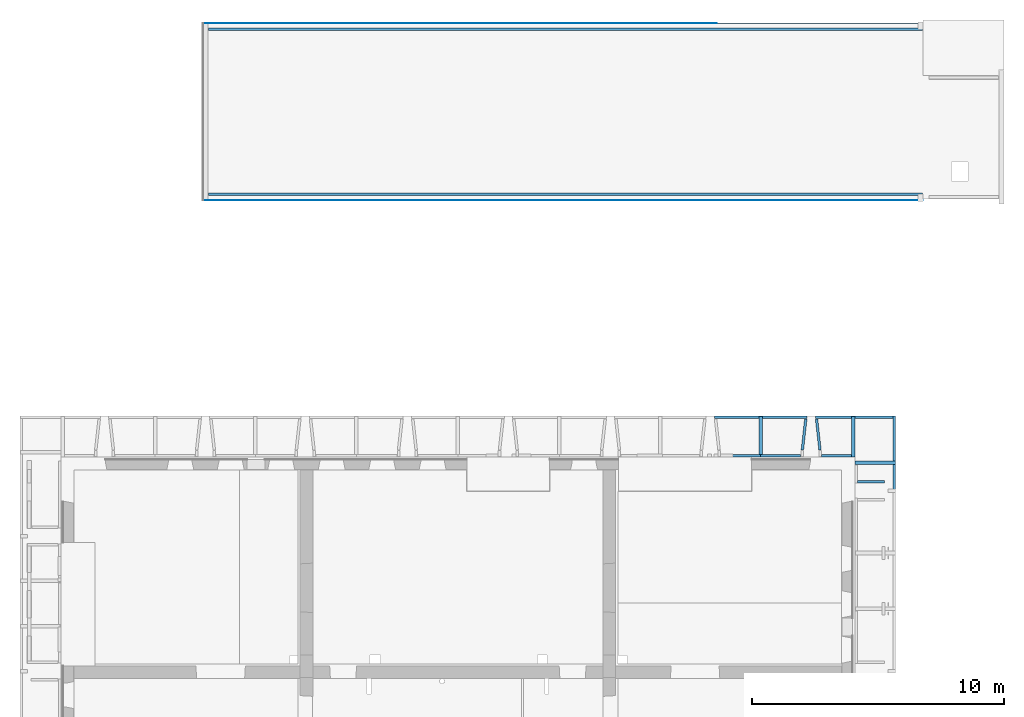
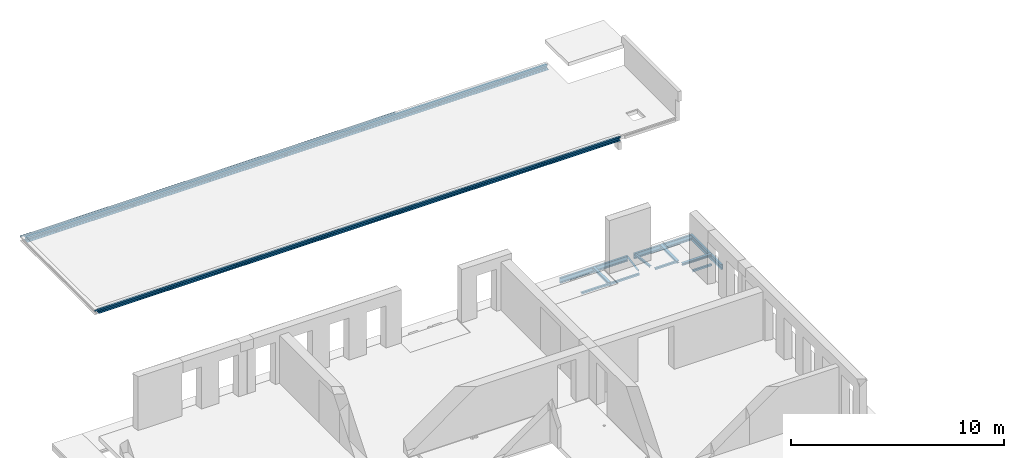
# One storey, part 10 of 27: 16 beams.
"""IFC2X3 building model written with IfcOpenShell, lengths in millimetres."""

from ifc_helpers import new_model, entity, si_unit, converted_unit, derived_unit, direction, frame, frame_2d, origin, origin_2d_with_axis, place, context, subcontext, project, spatial, polyline, circle_curve, parameter, trimmed, segment, composite_curve, rectangle, i_section, outline, extrude, source, transform, mapped, material, type_object, type_shapes, element, save


model = new_model("IFC2X3")

# Units and contexts
model_context = context("Model", 3, precision=0.01, world=origin(), true_north=direction((6.12303176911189e-17, 1.0)))
body_context = subcontext(model_context, "Body", "Model", "MODEL_VIEW")
ifc_project = project(units=[si_unit("LENGTHUNIT", "METRE", prefix="MILLI"), si_unit("AREAUNIT", "SQUARE_METRE"), si_unit("VOLUMEUNIT", "CUBIC_METRE"), converted_unit("PLANEANGLEUNIT", "DEGREE", entity("IfcRatioMeasure", 0.0174532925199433), si_unit("PLANEANGLEUNIT", "RADIAN"), dimensions=[0, 0, 0, 0, 0, 0, 0]), si_unit("MASSUNIT", "GRAM", prefix="KILO"), derived_unit("MASSDENSITYUNIT", [(si_unit("MASSUNIT", "GRAM", prefix="KILO"), 1), (si_unit("LENGTHUNIT", "METRE"), -3)]), si_unit("TIMEUNIT", "SECOND"), si_unit("FREQUENCYUNIT", "HERTZ"), si_unit("THERMODYNAMICTEMPERATUREUNIT", "DEGREE_CELSIUS"), derived_unit("THERMALTRANSMITTANCEUNIT", [(si_unit("MASSUNIT", "GRAM", prefix="KILO"), 1), (si_unit("THERMODYNAMICTEMPERATUREUNIT", "KELVIN"), -1), (si_unit("TIMEUNIT", "SECOND"), -3)]), derived_unit("VOLUMETRICFLOWRATEUNIT", [(si_unit("LENGTHUNIT", "METRE"), 3), (si_unit("TIMEUNIT", "SECOND"), -1)]), si_unit("ELECTRICCURRENTUNIT", "AMPERE"), si_unit("ELECTRICVOLTAGEUNIT", "VOLT"), si_unit("POWERUNIT", "WATT"), si_unit("FORCEUNIT", "NEWTON", prefix="KILO"), si_unit("ILLUMINANCEUNIT", "LUX"), si_unit("LUMINOUSFLUXUNIT", "LUMEN"), si_unit("LUMINOUSINTENSITYUNIT", "CANDELA"), derived_unit("USERDEFINED", [(si_unit("MASSUNIT", "GRAM", prefix="KILO"), -1), (si_unit("LENGTHUNIT", "METRE"), -2), (si_unit("TIMEUNIT", "SECOND"), 3), (si_unit("LUMINOUSFLUXUNIT", "LUMEN"), 1)]), derived_unit("LINEARVELOCITYUNIT", [(si_unit("LENGTHUNIT", "METRE"), 1), (si_unit("TIMEUNIT", "SECOND"), -1)]), si_unit("PRESSUREUNIT", "PASCAL"), derived_unit("USERDEFINED", [(si_unit("LENGTHUNIT", "METRE"), -2), (si_unit("MASSUNIT", "GRAM", prefix="KILO"), 1), (si_unit("TIMEUNIT", "SECOND"), -2)])], contexts=[model_context])

# Site, building, storey
site_placement = place(None, origin())
site = spatial("IfcSite", under=ifc_project, at=site_placement, Name="Default", CompositionType="ELEMENT")
building_placement = place(site_placement, origin())
building = spatial("IfcBuilding", under=site, at=building_placement, Name="niet gebruiken", CompositionType="ELEMENT")
storey_placement = place(building_placement, frame((0.0, 0.0, 18000.0)))
storey = spatial("IfcBuildingStorey", under=building, at=storey_placement, Name="05 vijfde verdieping", CompositionType="ELEMENT", Elevation=18000.0)

# Beams
ifc_material = material(Name="NLRS_h2_staal")
beam_type_1 = type_object("IfcBeamType", Name="ligger SFB190 HE200A+300x10", PredefinedType="BEAM", material=ifc_material)
shared_shape_1 = source(origin(), body_context, "Body", "SweptSolid", [
    extrude(rectangle(XDim=28299.9999999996, YDim=300.000000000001, at=origin_2d_with_axis()), frame((146020.0, 43550.0, 16730.0), z_axis=(0.0, 0.0, 1.0), x_axis=(-1.0, 0.0, 0.0)), (0.0, 0.0, 1.0), 9.99999999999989),
    extrude(outline(composite_curve([segment(polyline([(-100.0, -85.0), (-100.0, -95.0)]), True, "CONTINUOUS"), segment(polyline([(-100.0, -95.0), (100.0, -95.0)]), True, "CONTINUOUS"), segment(polyline([(100.0, -95.0), (100.0, -85.0)]), True, "CONTINUOUS"), segment(polyline([(100.0, -85.0), (21.25, -85.0)]), True, "CONTINUOUS"), segment(trimmed(circle_curve(frame_2d((21.25, -67.0), x_axis=(1.0, 0.0)), 18.0), [parameter(180.0)], [parameter(270.0)], True, "PARAMETER"), False, "CONTINUOUS"), segment(polyline([(3.25, -67.0), (3.25, 67.0)]), True, "CONTINUOUS"), segment(trimmed(circle_curve(frame_2d((21.25, 67.0), x_axis=(1.0, 0.0)), 18.0), [parameter(90.0000000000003)], [parameter(180.0)], True, "PARAMETER"), False, "CONTINUOUS"), segment(polyline([(21.25, 85.0), (100.0, 85.0)]), True, "CONTINUOUS"), segment(polyline([(100.0, 85.0), (100.0, 95.0)]), True, "CONTINUOUS"), segment(polyline([(100.0, 95.0), (-100.0, 95.0)]), True, "CONTINUOUS"), segment(polyline([(-100.0, 95.0), (-100.0, 85.0)]), True, "CONTINUOUS"), segment(polyline([(-100.0, 85.0), (-21.25, 85.0)]), True, "CONTINUOUS"), segment(trimmed(circle_curve(frame_2d((-21.25, 67.0), x_axis=(1.0, 0.0)), 18.0), [parameter(3.56222124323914e-13)], [parameter(90.0000000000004)], True, "PARAMETER"), False, "CONTINUOUS"), segment(polyline([(-3.25000000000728, 67.0), (-3.25000000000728, -67.0)]), True, "CONTINUOUS"), segment(trimmed(circle_curve(frame_2d((-21.25, -67.0), x_axis=(1.0, 0.0)), 18.0), [parameter(270.0)], [parameter(4.07110999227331e-13)], True, "PARAMETER"), False, "CONTINUOUS"), segment(polyline([(-21.25, -85.0), (-100.0, -85.0)]), True, "CONTINUOUS")], self_intersect=False)), frame((131870.0, 43500.0, 16835.0), z_axis=(-1.0, 0.0, 0.0), x_axis=(0.0, 1.0, 0.0)), (0.0, 0.0, -1.0), 28299.9999999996),
])
type_shapes(beam_type_1, [shared_shape_1])
beam_1_placement = place(storey_placement, frame((0.0, 0.0, -18000.0)))
element("IfcBeam", 1, at=beam_1_placement, inside=storey, type_object=beam_type_1, material=ifc_material, Name="NLRS_28.11_SF_WPB_stalen ligger SFB_gen_BSc:ligger SFB190 HE200A+300x10", ObjectType="ligger SFB190 HE200A+300x10", context=body_context, shape_type="MappedRepresentation", body=[
    mapped(shared_shape_1, transform((0.0, 0.0, 0.0), scale=1.0)),
])
beam_type_2 = type_object("IfcBeamType", Name="ligger SFB190 HE200A+300x10", PredefinedType="BEAM", material=ifc_material)
shared_shape_2 = source(origin(), body_context, "Body", "SweptSolid", [
    extrude(rectangle(XDim=300.000000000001, YDim=28299.9999999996, at=origin_2d_with_axis()), frame((146020.0, 50275.0, 16730.0), z_axis=(0.0, 0.0, 1.0), x_axis=(0.0, 1.0, 0.0)), (0.0, 0.0, 1.0), 9.99999999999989),
    extrude(outline(composite_curve([segment(polyline([(85.0, -100.0), (95.0, -100.0)]), True, "CONTINUOUS"), segment(polyline([(95.0, -100.0), (95.0, 100.0)]), True, "CONTINUOUS"), segment(polyline([(95.0, 100.0), (85.0, 100.0)]), True, "CONTINUOUS"), segment(polyline([(85.0, 100.0), (85.0, 21.2500000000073)]), True, "CONTINUOUS"), segment(trimmed(circle_curve(frame_2d((67.0, 21.2500000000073), x_axis=(0.0, 1.0)), 18.0), [parameter(180.0)], [parameter(270.0)], True, "PARAMETER"), False, "CONTINUOUS"), segment(polyline([(67.0, 3.25000000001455), (-67.0, 3.25000000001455)]), True, "CONTINUOUS"), segment(trimmed(circle_curve(frame_2d((-67.0, 21.2500000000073), x_axis=(0.0, 1.0)), 18.0), [parameter(90.0000000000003)], [parameter(180.0)], True, "PARAMETER"), False, "CONTINUOUS"), segment(polyline([(-85.0, 21.2500000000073), (-85.0, 100.0)]), True, "CONTINUOUS"), segment(polyline([(-85.0, 100.0), (-95.0, 100.0)]), True, "CONTINUOUS"), segment(polyline([(-95.0, 100.0), (-95.0, -100.0)]), True, "CONTINUOUS"), segment(polyline([(-95.0, -100.0), (-85.0, -100.0)]), True, "CONTINUOUS"), segment(polyline([(-85.0, -100.0), (-85.0, -21.2499999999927)]), True, "CONTINUOUS"), segment(trimmed(circle_curve(frame_2d((-67.0, -21.2499999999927), x_axis=(0.0, 1.0)), 18.0), [parameter(3.56222124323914e-13)], [parameter(90.0000000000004)], True, "PARAMETER"), False, "CONTINUOUS"), segment(polyline([(-67.0, -3.24999999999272), (67.0, -3.24999999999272)]), True, "CONTINUOUS"), segment(trimmed(circle_curve(frame_2d((67.0, -21.2499999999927), x_axis=(0.0, 1.0)), 18.0), [parameter(270.0)], [parameter(4.07110999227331e-13)], True, "PARAMETER"), False, "CONTINUOUS"), segment(polyline([(85.0, -21.2499999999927), (85.0, -100.0)]), True, "CONTINUOUS")], self_intersect=False)), frame((131870.0, 50325.0, 16835.0), z_axis=(1.0, 0.0, 0.0), x_axis=(0.0, 0.0, 1.0)), (0.0, 0.0, 1.0), 28299.9999999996),
])
type_shapes(beam_type_2, [shared_shape_2])
beam_2_placement = place(storey_placement, frame((0.0, 0.0, -18000.0)))
element("IfcBeam", 2, at=beam_2_placement, inside=storey, type_object=beam_type_2, material=ifc_material, Name="NLRS_28.11_SF_WPB_stalen ligger SFB_gen_BSc:ligger SFB190 HE200A+300x10", ObjectType="ligger SFB190 HE200A+300x10", context=body_context, shape_type="MappedRepresentation", body=[
    mapped(shared_shape_2, transform((0.0, 0.0, 0.0), scale=1.0)),
])
beam_type_3 = type_object("IfcBeamType", Name="NLRS_28.11_SF_WPB_stalen ligger HEA_gen:ligger HEA 140", PredefinedType="BEAM")
beam_3_placement = place(storey_placement, frame((153750.0, 34840.0, -1015.0), z_axis=(0.0, 0.0, 1.0), x_axis=(0.0, -1.0, 0.0)))
element("IfcBeam", 3, at=beam_3_placement, inside=storey, type_object=beam_type_3, material=ifc_material, Name="NLRS_28.11_SF_WPB_stalen ligger HEA_gen:ligger HEA 140", ObjectType="NLRS_28.11_SF_WPB_stalen ligger HEA_gen:ligger HEA 140", context=body_context, shape_type="SweptSolid", body=[
    extrude(i_section(OverallWidth=140.000000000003, OverallDepth=133.0, WebThickness=5.49999999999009, FlangeThickness=8.49999999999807, FilletRadius=11.9999999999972, at=frame_2d((-4.33431068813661e-12, 0.0), x_axis=(0.0, 1.0))), frame((0.0, 0.0, -66.5000000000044), z_axis=(1.0, 0.0, 0.0), x_axis=(0.0, 0.0, -1.0)), (0.0, 0.0, 1.0), 1610.0),
])
beam_4_placement = place(storey_placement, frame((157410.0, 34840.0, -1015.0), z_axis=(0.0, 0.0, 1.0), x_axis=(0.0, -1.0, 0.0)))
element("IfcBeam", 4, at=beam_4_placement, inside=storey, type_object=beam_type_3, material=ifc_material, Name="NLRS_28.11_SF_WPB_stalen ligger HEA_gen:ligger HEA 140", ObjectType="NLRS_28.11_SF_WPB_stalen ligger HEA_gen:ligger HEA 140", context=body_context, shape_type="SweptSolid", body=[
    extrude(i_section(OverallWidth=139.999999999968, OverallDepth=133.0, WebThickness=5.50000000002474, FlangeThickness=8.49999999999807, FilletRadius=12.000000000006, at=frame_2d((-4.33431068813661e-12, 0.0), x_axis=(0.0, 1.0))), frame((0.0, 0.0, -66.5000000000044), z_axis=(1.0, 0.0, 0.0), x_axis=(0.0, 0.0, -1.0)), (0.0, 0.0, 1.0), 1610.0),
])
beam_5_placement = place(storey_placement, frame((157480.0, 33000.0, -1015.0)))
element("IfcBeam", 5, at=beam_5_placement, inside=storey, type_object=beam_type_3, material=ifc_material, Name="NLRS_28.11_SF_WPB_stalen ligger HEA_gen:ligger HEA 140", ObjectType="NLRS_28.11_SF_WPB_stalen ligger HEA_gen:ligger HEA 140", context=body_context, shape_type="SweptSolid", body=[
    extrude(i_section(OverallWidth=140.000000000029, OverallDepth=133.0, WebThickness=5.49999999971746, FlangeThickness=8.49999999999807, FilletRadius=12.0000000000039, at=frame_2d((-4.33431068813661e-12, 0.0), x_axis=(0.0, 1.0))), frame((0.0, 0.0, -66.5000000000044), z_axis=(1.0, 0.0, 0.0), x_axis=(0.0, 0.0, -1.0)), (0.0, 0.0, 1.0), 1609.7398436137),
])
beam_type_4 = type_object("IfcBeamType", Name="ligger stripstaal RECT_85x5", PredefinedType="BEAM", material=ifc_material)
shared_shape_3 = source(origin(), body_context, "Body", "SweptSolid", [
    extrude(rectangle(XDim=28519.9999999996, YDim=4.99999999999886, at=frame_2d((0.0, 4.33142410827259e-12), x_axis=(1.0, 0.0))), frame((145910.0, 43402.5, 16930.0)), (0.0, 0.0, 1.0), 85.0000000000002),
    extrude(rectangle(XDim=28519.9999999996, YDim=4.99999999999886, at=frame_2d((0.0, 4.33142410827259e-12), x_axis=(1.0, 0.0))), frame((145910.0, 43402.5, 16930.0)), (0.0, 0.0, 1.0), 85.0000000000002),
])
type_shapes(beam_type_4, [shared_shape_3])
beam_6_placement = place(storey_placement, frame((0.0, 0.0, -18000.0)))
element("IfcBeam", 6, at=beam_6_placement, inside=storey, type_object=beam_type_4, material=ifc_material, Name="NLRS_28.11_SF_WPB_stalen ligger stripstaal_gen:ligger stripstaal RECT_85x5", ObjectType="ligger stripstaal RECT_85x5", context=body_context, shape_type="MappedRepresentation", body=[
    mapped(shared_shape_3, transform((0.0, 0.0, 0.0), scale=1.0)),
])
beam_type_5 = type_object("IfcBeamType", Name="ligger stripstaal RECT_85x5", PredefinedType="BEAM", material=ifc_material)
shared_shape_4 = source(origin(), body_context, "Body", "SweptSolid", [
    extrude(rectangle(XDim=20349.9999999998, YDim=4.99999999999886, at=frame_2d((0.0, 4.33142410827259e-12), x_axis=(1.0, 0.0))), frame((141825.0, 50422.5, 16930.0)), (0.0, 0.0, 1.0), 85.0000000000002),
    extrude(rectangle(XDim=20349.9999999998, YDim=4.99999999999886, at=frame_2d((0.0, 4.33142410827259e-12), x_axis=(1.0, 0.0))), frame((141825.0, 50422.5, 16930.0)), (0.0, 0.0, 1.0), 85.0000000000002),
])
type_shapes(beam_type_5, [shared_shape_4])
beam_7_placement = place(storey_placement, frame((0.0, 0.0, -18000.0)))
element("IfcBeam", 7, at=beam_7_placement, inside=storey, type_object=beam_type_5, material=ifc_material, Name="NLRS_28.11_SF_WPB_stalen ligger stripstaal_gen:ligger stripstaal RECT_85x5", ObjectType="ligger stripstaal RECT_85x5", context=body_context, shape_type="MappedRepresentation", body=[
    mapped(shared_shape_4, transform((0.0, 0.0, 0.0), scale=1.0)),
])
beam_type_6 = type_object("IfcBeamType", Name="NLRS_28.11_SF_WPB_stalen ligger UNP_gen:ligger UNP 300", PredefinedType="BEAM")
beam_8_placement = place(storey_placement, frame((151915.0, 34823.0, -1015.0)))
element("IfcBeam", 8, at=beam_8_placement, inside=storey, type_object=beam_type_6, material=ifc_material, Name="NLRS_28.11_SF_WPB_stalen ligger UNP_gen:ligger UNP 300", ObjectType="NLRS_28.11_SF_WPB_stalen ligger UNP_gen:ligger UNP 300", context=body_context, shape_type="SweptSolid", body=[
    extrude(outline(composite_curve([segment(polyline([(-149.93760274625, -45.3333333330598), (-142.655201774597, -45.3333333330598)]), True, "CONTINUOUS"), segment(trimmed(circle_curve(frame_2d((-142.655201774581, -37.3333333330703), x_axis=(0.0, -1.0)), 7.99999999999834), [parameter(0.0)], [parameter(90.0000000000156)], True, "PARAMETER"), True, "CONTINUOUS"), segment(polyline([(-134.655201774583, -37.3333333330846), (-130.390412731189, 28.6666666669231)]), True, "CONTINUOUS"), segment(trimmed(circle_curve(frame_2d((-114.390412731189, 28.6666666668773), x_axis=(-1.0, 0.0)), 16.0000000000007), [parameter(270.0)], [parameter(0.0)], True, "PARAMETER"), False, "CONTINUOUS"), segment(polyline([(-114.390412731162, 44.666666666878), (113.875860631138, 44.6666666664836)]), True, "CONTINUOUS"), segment(trimmed(circle_curve(frame_2d((113.875860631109, 28.6666666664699), x_axis=(0.0, 1.0)), 16.0000000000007), [parameter(270.0)], [parameter(0.0)], True, "PARAMETER"), False, "CONTINUOUS"), segment(polyline([(129.87586063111, 28.6666666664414), (135.044959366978, -37.3333333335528)]), True, "CONTINUOUS"), segment(trimmed(circle_curve(frame_2d((143.044959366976, -37.3333333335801), x_axis=(-1.0, 0.0)), 7.99999999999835), [parameter(0.0)], [parameter(90.0000000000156)], True, "PARAMETER"), True, "CONTINUOUS"), segment(polyline([(143.044959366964, -45.3333333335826), (150.062397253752, -45.3333333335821)]), True, "CONTINUOUS"), segment(polyline([(150.062397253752, -45.3333333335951), (150.06239725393, 54.6666666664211)]), True, "CONTINUOUS"), segment(polyline([(150.06239725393, 54.6666666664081), (-149.937602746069, 54.6666666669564)]), True, "CONTINUOUS"), segment(polyline([(-149.937602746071, 54.6666666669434), (-149.93760274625, -45.3333333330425)]), True, "CONTINUOUS")], self_intersect=False)), frame((0.0, -27.6666666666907, -149.937602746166), z_axis=(1.0, 0.0, 0.0), x_axis=(0.0, 0.0, -1.0)), (0.0, 0.0, 1.0), 3673.03330011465),
])
beam_9_placement = place(storey_placement, frame((155915.0, 34823.0, -1015.0)))
element("IfcBeam", 9, at=beam_9_placement, inside=storey, type_object=beam_type_6, material=ifc_material, Name="NLRS_28.11_SF_WPB_stalen ligger UNP_gen:ligger UNP 300", ObjectType="NLRS_28.11_SF_WPB_stalen ligger UNP_gen:ligger UNP 300", context=body_context, shape_type="SweptSolid", body=[
    extrude(outline(composite_curve([segment(polyline([(-149.937602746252, -45.3333333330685), (-142.655201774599, -45.3333333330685)]), True, "CONTINUOUS"), segment(trimmed(circle_curve(frame_2d((-142.655201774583, -37.333333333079), x_axis=(0.0, -1.0)), 7.99999999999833), [parameter(0.0)], [parameter(90.0000000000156)], True, "PARAMETER"), True, "CONTINUOUS"), segment(polyline([(-134.655201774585, -37.3333333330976), (-130.390412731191, 28.6666666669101)]), True, "CONTINUOUS"), segment(trimmed(circle_curve(frame_2d((-114.390412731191, 28.6666666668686), x_axis=(-1.0, 0.0)), 16.0000000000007), [parameter(270.0)], [parameter(0.0)], True, "PARAMETER"), False, "CONTINUOUS"), segment(polyline([(-114.390412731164, 44.6666666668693), (113.875860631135, 44.666666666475)]), True, "CONTINUOUS"), segment(trimmed(circle_curve(frame_2d((113.875860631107, 28.6666666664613), x_axis=(0.0, 1.0)), 16.0000000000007), [parameter(270.0)], [parameter(0.0)], True, "PARAMETER"), False, "CONTINUOUS"), segment(polyline([(129.875860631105, 28.6666666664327), (135.044959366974, -37.3333333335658)]), True, "CONTINUOUS"), segment(trimmed(circle_curve(frame_2d((143.044959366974, -37.3333333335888), x_axis=(-1.0, 0.0)), 7.99999999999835), [parameter(0.0)], [parameter(90.0000000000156)], True, "PARAMETER"), True, "CONTINUOUS"), segment(polyline([(143.044959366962, -45.3333333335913), (150.062397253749, -45.3333333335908)]), True, "CONTINUOUS"), segment(polyline([(150.062397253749, -45.3333333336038), (150.062397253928, 54.6666666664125)]), True, "CONTINUOUS"), segment(polyline([(150.062397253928, 54.6666666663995), (-149.937602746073, 54.6666666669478)]), True, "CONTINUOUS"), segment(polyline([(-149.937602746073, 54.6666666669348), (-149.937602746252, -45.3333333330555)]), True, "CONTINUOUS")], self_intersect=False)), frame((0.0, -27.6666666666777, -149.937602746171), z_axis=(1.0, 0.0, 0.0), x_axis=(0.0, 0.0, -1.0)), (0.0, 0.0, 1.0), 3185.00000000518),
])
beam_10_placement = place(storey_placement, frame((159073.0, 31950.0, -1015.0), z_axis=(0.0, 0.0, 1.0), x_axis=(0.0, 1.0, 0.0)))
element("IfcBeam", 10, at=beam_10_placement, inside=storey, type_object=beam_type_6, material=ifc_material, Name="NLRS_28.11_SF_WPB_stalen ligger UNP_gen:ligger UNP 300", ObjectType="NLRS_28.11_SF_WPB_stalen ligger UNP_gen:ligger UNP 300", context=body_context, shape_type="SweptSolid", body=[
    extrude(outline(composite_curve([segment(polyline([(-150.062397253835, -54.6666666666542), (149.937602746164, -54.6666666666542)]), True, "CONTINUOUS"), segment(polyline([(149.937602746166, -54.6666666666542), (149.937602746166, 45.333333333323)]), True, "CONTINUOUS"), segment(polyline([(149.937602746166, 45.3333333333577), (142.655201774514, 45.3333333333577)]), True, "CONTINUOUS"), segment(trimmed(circle_curve(frame_2d((142.655201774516, 37.3333333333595), x_axis=(0.0, 1.0)), 8.00000000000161), [parameter(0.0)], [parameter(89.9999999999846)], True, "PARAMETER"), True, "CONTINUOUS"), segment(polyline([(134.655201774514, 37.3333333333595), (130.390412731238, -28.6666666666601)]), True, "CONTINUOUS"), segment(trimmed(circle_curve(frame_2d((114.390412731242, -28.6666666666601), x_axis=(1.0, 0.0)), 15.9999999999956), [parameter(269.999999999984)], [parameter(0.0)], True, "PARAMETER"), False, "CONTINUOUS"), segment(polyline([(114.39041273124, -44.6666666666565), (-113.87586063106, -44.6666666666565)]), True, "CONTINUOUS"), segment(trimmed(circle_curve(frame_2d((-113.875860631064, -28.6666666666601), x_axis=(0.0, -1.0)), 15.9999999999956), [parameter(269.999999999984)], [parameter(0.0)], True, "PARAMETER"), False, "CONTINUOUS"), segment(polyline([(-129.875860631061, -28.6666666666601), (-135.044959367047, 37.3333333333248)]), True, "CONTINUOUS"), segment(trimmed(circle_curve(frame_2d((-143.04495936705, 37.3333333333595), x_axis=(1.0, 0.0)), 8.00000000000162), [parameter(0.0)], [parameter(89.9999999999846)], True, "PARAMETER"), True, "CONTINUOUS"), segment(polyline([(-143.044959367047, 45.3333333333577), (-150.062397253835, 45.3333333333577)]), True, "CONTINUOUS"), segment(polyline([(-150.062397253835, 45.3333333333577), (-150.062397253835, -54.6666666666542)]), True, "CONTINUOUS")], self_intersect=False)), frame((0.0, 27.6666666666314, -150.062397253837), z_axis=(1.0, 0.0, 0.0), x_axis=(0.0, 0.0, -1.0)), (0.0, 0.0, 1.0), 2900.00000000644),
])
beam_type_7 = type_object("IfcBeamType", Name="NLRS_28.11_SF_WPB_stalen ligger hoekprofiel gelijkzijdig_gen:ligger gelijzijdig hoekprofiel LEQU_100x100x10", PredefinedType="BEAM")
beam_11_placement = place(storey_placement, frame((157580.154175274, 32200.2457647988, -1015.0)))
element("IfcBeam", 11, at=beam_11_placement, inside=storey, type_object=beam_type_7, material=ifc_material, Name="NLRS_28.11_SF_WPB_stalen ligger hoekprofiel gelijkzijdig_gen:ligger gelijzijdig hoekprofiel LEQU_100x100x10", ObjectType="NLRS_28.11_SF_WPB_stalen ligger hoekprofiel gelijkzijdig_gen:ligger gelijzijdig hoekprofiel LEQU_100x100x10", context=body_context, shape_type="SweptSolid", body=[
    extrude(outline(composite_curve([segment(polyline([(-37.7777777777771, -37.7777777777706), (62.222222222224, -37.7777777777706)]), True, "CONTINUOUS"), segment(polyline([(62.222222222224, -37.7777777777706), (62.222222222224, -33.7777777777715)]), True, "CONTINUOUS"), segment(trimmed(circle_curve(frame_2d((56.2222222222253, -33.7777777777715), x_axis=(1.0, 0.0)), 5.99999999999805), [parameter(0.0)], [parameter(90.0000000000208)], True, "PARAMETER"), True, "CONTINUOUS"), segment(polyline([(56.2222222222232, -27.7777777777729), (-15.7777777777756, -27.7777777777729)]), True, "CONTINUOUS"), segment(trimmed(circle_curve(frame_2d((-15.7777777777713, -15.777777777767), x_axis=(0.0, -1.0)), 12.0000000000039), [parameter(270.000000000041)], [parameter(0.0)], True, "PARAMETER"), False, "CONTINUOUS"), segment(polyline([(-27.7777777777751, -15.7777777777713), (-27.7777777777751, 56.2222222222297)]), True, "CONTINUOUS"), segment(trimmed(circle_curve(frame_2d((-33.7777777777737, 56.2222222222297), x_axis=(1.0, 0.0)), 5.99999999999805), [parameter(0.0)], [parameter(90.0000000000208)], True, "PARAMETER"), True, "CONTINUOUS"), segment(polyline([(-33.7777777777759, 62.2222222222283), (-37.7777777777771, 62.2222222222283)]), True, "CONTINUOUS"), segment(polyline([(-37.7777777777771, 62.2222222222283), (-37.7777777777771, -37.7777777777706)]), True, "CONTINUOUS")], self_intersect=False)), frame((12.7000006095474, 37.7777777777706, -37.7777777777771), z_axis=(1.0, 0.0, 0.0), x_axis=(0.0, 0.0, -1.0)), (0.0, 0.0, 1.0), 1067.14582411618),
])
beam_12_placement = place(storey_placement, frame((152170.0, 33330.0, -1015.0)))
element("IfcBeam", 12, at=beam_12_placement, inside=storey, type_object=beam_type_7, material=ifc_material, Name="NLRS_28.11_SF_WPB_stalen ligger hoekprofiel gelijkzijdig_gen:ligger gelijzijdig hoekprofiel LEQU_100x100x10", ObjectType="NLRS_28.11_SF_WPB_stalen ligger hoekprofiel gelijkzijdig_gen:ligger gelijzijdig hoekprofiel LEQU_100x100x10", context=body_context, shape_type="SweptSolid", body=[
    extrude(outline(composite_curve([segment(polyline([(-37.7777777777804, -37.7777777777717), (62.2222222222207, -37.7777777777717)]), True, "CONTINUOUS"), segment(polyline([(62.2222222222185, -37.7777777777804), (62.2222222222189, -33.7777777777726)]), True, "CONTINUOUS"), segment(trimmed(circle_curve(frame_2d((56.2222222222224, -33.7777777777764), x_axis=(1.0, 0.0)), 5.99999999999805), [parameter(0.0)], [parameter(90.0000000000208)], True, "PARAMETER"), True, "CONTINUOUS"), segment(polyline([(56.2222222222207, -27.7777777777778), (-15.777777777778, -27.7777777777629)]), True, "CONTINUOUS"), segment(trimmed(circle_curve(frame_2d((-15.7777777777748, -15.7777777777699), x_axis=(0.0, -1.0)), 12.0000000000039), [parameter(270.000000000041)], [parameter(0.0)], True, "PARAMETER"), False, "CONTINUOUS"), segment(polyline([(-27.7777777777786, -15.7777777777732), (-27.7777777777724, 56.2222222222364)]), True, "CONTINUOUS"), segment(trimmed(circle_curve(frame_2d((-33.777777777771, 56.2222222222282), x_axis=(1.0, 0.0)), 5.99999999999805), [parameter(0.0)], [parameter(90.0000000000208)], True, "PARAMETER"), True, "CONTINUOUS"), segment(polyline([(-33.7777777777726, 62.2222222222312), (-37.7777777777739, 62.2222222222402)]), True, "CONTINUOUS"), segment(polyline([(-37.7777777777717, 62.2222222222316), (-37.7777777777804, -37.7777777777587)]), True, "CONTINUOUS")], self_intersect=False)), frame((0.0, -62.222222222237, -37.7777777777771), z_axis=(1.0, 0.0, 0.0), x_axis=(0.0, 0.0, -1.0)), (0.0, 0.0, 1.0), 1579.99999939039),
])
beam_13_placement = place(storey_placement, frame((155487.912001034, 34746.746523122, -1015.0), z_axis=(0.0, 0.0, 1.0), x_axis=(-0.110431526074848, -0.993883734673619, 0.0)))
element("IfcBeam", 13, at=beam_13_placement, inside=storey, type_object=beam_type_7, material=ifc_material, Name="NLRS_28.11_SF_WPB_stalen ligger hoekprofiel gelijkzijdig_gen:ligger gelijzijdig hoekprofiel LEQU_100x100x10", ObjectType="NLRS_28.11_SF_WPB_stalen ligger hoekprofiel gelijkzijdig_gen:ligger gelijzijdig hoekprofiel LEQU_100x100x10", context=body_context, shape_type="SweptSolid", body=[
    extrude(outline(composite_curve([segment(polyline([(-37.7777777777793, -62.2222222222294), (-33.777777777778, -62.2222222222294)]), True, "CONTINUOUS"), segment(trimmed(circle_curve(frame_2d((-33.7777777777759, -56.2222222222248), x_axis=(0.0, -1.0)), 5.99999999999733), [parameter(0.0)], [parameter(90.0000000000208)], True, "PARAMETER"), True, "CONTINUOUS"), segment(polyline([(-27.7777777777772, -56.2222222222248), (-27.7777777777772, 15.7777777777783)]), True, "CONTINUOUS"), segment(trimmed(circle_curve(frame_2d((-15.7777777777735, 15.7777777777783), x_axis=(-1.0, 0.0)), 12.000000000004), [parameter(270.000000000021)], [parameter(0.0)], True, "PARAMETER"), False, "CONTINUOUS"), segment(polyline([(-15.7777777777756, 27.7777777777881), (56.2222222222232, 27.7777777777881)]), True, "CONTINUOUS"), segment(trimmed(circle_curve(frame_2d((56.2222222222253, 33.7777777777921), x_axis=(0.0, -1.0)), 5.99999999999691), [parameter(0.0)], [parameter(90.0000000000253)], True, "PARAMETER"), True, "CONTINUOUS"), segment(polyline([(62.2222222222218, 33.7777777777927), (62.2222222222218, 37.7777777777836)]), True, "CONTINUOUS"), segment(polyline([(62.222222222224, 37.7777777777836), (-37.7777777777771, 37.7777777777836)]), True, "CONTINUOUS"), segment(polyline([(-37.7777777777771, 37.7777777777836), (-37.7777777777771, -62.2222222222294)]), True, "CONTINUOUS")], self_intersect=False)), frame((0.0, 62.2222222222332, -37.7777777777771), z_axis=(1.0, 0.0, 0.0), x_axis=(0.0, 0.0, -1.0)), (0.0, 0.0, 1.0), 1235.00000000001),
])
beam_14_placement = place(storey_placement, frame((153750.0, 33330.0, -1015.0)))
element("IfcBeam", 14, at=beam_14_placement, inside=storey, type_object=beam_type_7, material=ifc_material, Name="NLRS_28.11_SF_WPB_stalen ligger hoekprofiel gelijkzijdig_gen:ligger gelijzijdig hoekprofiel LEQU_100x100x10", ObjectType="NLRS_28.11_SF_WPB_stalen ligger hoekprofiel gelijkzijdig_gen:ligger gelijzijdig hoekprofiel LEQU_100x100x10", context=body_context, shape_type="SweptSolid", body=[
    extrude(outline(composite_curve([segment(polyline([(-37.7777777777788, -37.7777777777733), (62.2222222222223, -37.7777777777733)]), True, "CONTINUOUS"), segment(polyline([(62.2222222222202, -37.7777777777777), (62.2222222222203, -33.7777777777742)]), True, "CONTINUOUS"), segment(trimmed(circle_curve(frame_2d((56.2222222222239, -33.777777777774), x_axis=(1.0, 0.0)), 5.99999999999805), [parameter(0.0)], [parameter(90.0000000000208)], True, "PARAMETER"), True, "CONTINUOUS"), segment(polyline([(56.222222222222, -27.7777777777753), (-15.7777777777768, -27.7777777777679)]), True, "CONTINUOUS"), segment(trimmed(circle_curve(frame_2d((-15.7777777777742, -15.7777777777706), x_axis=(0.0, -1.0)), 12.0000000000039), [parameter(270.000000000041)], [parameter(0.0)], True, "PARAMETER"), False, "CONTINUOUS"), segment(polyline([(-27.7777777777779, -15.7777777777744), (-27.7777777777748, 56.2222222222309)]), True, "CONTINUOUS"), segment(trimmed(circle_curve(frame_2d((-33.7777777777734, 56.2222222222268), x_axis=(1.0, 0.0)), 5.99999999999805), [parameter(0.0)], [parameter(90.0000000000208)], True, "PARAMETER"), True, "CONTINUOUS"), segment(polyline([(-33.7777777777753, 62.2222222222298), (-37.7777777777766, 62.2222222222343)]), True, "CONTINUOUS"), segment(polyline([(-37.7777777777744, 62.2222222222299), (-37.7777777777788, -37.7777777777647)]), True, "CONTINUOUS")], self_intersect=False)), frame((6.09640958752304e-07, -62.2222222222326, -37.7777777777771), z_axis=(1.0, 0.0, 0.0), x_axis=(0.0, 0.0, -1.0)), (0.0, 0.0, 1.0), 1579.99999939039),
])
beam_15_placement = place(storey_placement, frame((156012.640156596, 34741.7771044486, -1015.0), z_axis=(0.0, 0.0, 1.0), x_axis=(0.110431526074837, -0.99388373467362, 0.0)))
element("IfcBeam", 15, at=beam_15_placement, inside=storey, type_object=beam_type_7, material=ifc_material, Name="NLRS_28.11_SF_WPB_stalen ligger hoekprofiel gelijkzijdig_gen:ligger gelijzijdig hoekprofiel LEQU_100x100x10", ObjectType="NLRS_28.11_SF_WPB_stalen ligger hoekprofiel gelijkzijdig_gen:ligger gelijzijdig hoekprofiel LEQU_100x100x10", context=body_context, shape_type="SweptSolid", body=[
    extrude(outline(composite_curve([segment(polyline([(-37.7777777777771, -37.7777777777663), (62.222222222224, -37.7777777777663)]), True, "CONTINUOUS"), segment(polyline([(62.2222222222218, -37.7777777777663), (62.2222222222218, -33.7777777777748)]), True, "CONTINUOUS"), segment(trimmed(circle_curve(frame_2d((56.2222222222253, -33.7777777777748), x_axis=(1.0, 0.0)), 5.9999999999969), [parameter(0.0)], [parameter(90.0000000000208)], True, "PARAMETER"), True, "CONTINUOUS"), segment(polyline([(56.2222222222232, -27.7777777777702), (-15.7777777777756, -27.7777777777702)]), True, "CONTINUOUS"), segment(trimmed(circle_curve(frame_2d((-15.7777777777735, -15.7777777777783), x_axis=(0.0, -1.0)), 12.000000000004), [parameter(270.000000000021)], [parameter(0.0)], True, "PARAMETER"), False, "CONTINUOUS"), segment(polyline([(-27.7777777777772, -15.7777777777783), (-27.7777777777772, 56.2222222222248)]), True, "CONTINUOUS"), segment(trimmed(circle_curve(frame_2d((-33.7777777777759, 56.2222222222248), x_axis=(1.0, 0.0)), 5.99999999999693), [parameter(0.0)], [parameter(90.0000000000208)], True, "PARAMETER"), True, "CONTINUOUS"), segment(polyline([(-33.777777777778, 62.2222222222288), (-37.7777777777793, 62.2222222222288)]), True, "CONTINUOUS"), segment(polyline([(-37.7777777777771, 62.2222222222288), (-37.7777777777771, -37.7777777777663)]), True, "CONTINUOUS")], self_intersect=False)), frame((0.0, -62.222222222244, -37.7777777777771), z_axis=(1.0, 0.0, 0.0), x_axis=(0.0, 0.0, -1.0)), (0.0, 0.0, 1.0), 1230.0),
])
beam_16_placement = place(storey_placement, frame((156165.0, 33330.0, -1015.0)))
element("IfcBeam", 16, at=beam_16_placement, inside=storey, type_object=beam_type_7, material=ifc_material, Name="NLRS_28.11_SF_WPB_stalen ligger hoekprofiel gelijkzijdig_gen:ligger gelijzijdig hoekprofiel LEQU_100x100x10", ObjectType="NLRS_28.11_SF_WPB_stalen ligger hoekprofiel gelijkzijdig_gen:ligger gelijzijdig hoekprofiel LEQU_100x100x10", context=body_context, shape_type="SweptSolid", body=[
    extrude(outline(composite_curve([segment(polyline([(-37.7777777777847, -37.777777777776), (62.2222222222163, -37.777777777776)]), True, "CONTINUOUS"), segment(polyline([(62.2222222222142, -37.7777777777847), (62.2222222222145, -33.7777777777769)]), True, "CONTINUOUS"), segment(trimmed(circle_curve(frame_2d((56.2222222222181, -33.7777777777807), x_axis=(1.0, 0.0)), 5.99999999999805), [parameter(0.0)], [parameter(90.0000000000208)], True, "PARAMETER"), True, "CONTINUOUS"), segment(polyline([(56.2222222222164, -27.7777777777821), (-15.7777777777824, -27.7777777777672)]), True, "CONTINUOUS"), segment(trimmed(circle_curve(frame_2d((-15.7777777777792, -15.7777777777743), x_axis=(0.0, -1.0)), 12.0000000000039), [parameter(270.000000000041)], [parameter(0.0)], True, "PARAMETER"), False, "CONTINUOUS"), segment(polyline([(-27.7777777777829, -15.7777777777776), (-27.7777777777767, 56.2222222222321)]), True, "CONTINUOUS"), segment(trimmed(circle_curve(frame_2d((-33.7777777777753, 56.2222222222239), x_axis=(1.0, 0.0)), 5.99999999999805), [parameter(0.0)], [parameter(90.0000000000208)], True, "PARAMETER"), True, "CONTINUOUS"), segment(polyline([(-33.777777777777, 62.2222222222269), (-37.7777777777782, 62.2222222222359)]), True, "CONTINUOUS"), segment(polyline([(-37.7777777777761, 62.2222222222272), (-37.7777777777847, -37.7777777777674)]), True, "CONTINUOUS")], self_intersect=False)), frame((0.0, -62.2222222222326, -37.7777777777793), z_axis=(1.0, 0.0, 0.0), x_axis=(0.0, 0.0, -1.0)), (0.0, 0.0, 1.0), 1175.00000000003),
])

save(model, "model.ifc")
